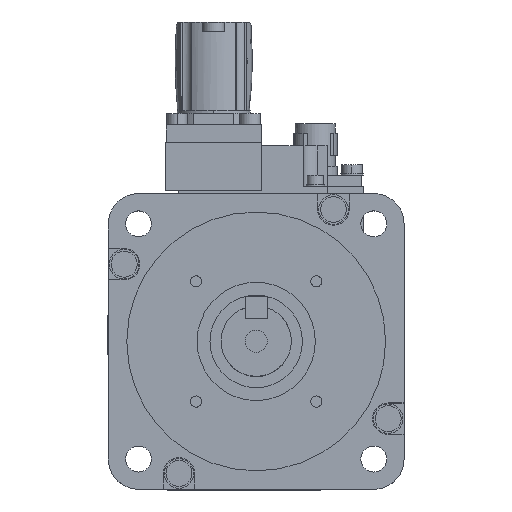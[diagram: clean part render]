
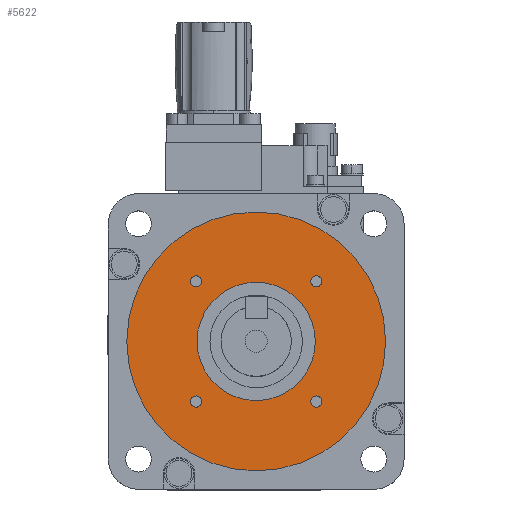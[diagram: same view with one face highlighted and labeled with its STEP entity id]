
A CAD part, top view. The second image highlights one B-rep face of the part: STEP entity #5622.
In plain terms, the highlighted planar face has unit normal (0, 0, 1).
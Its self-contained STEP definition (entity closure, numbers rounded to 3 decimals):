
#3662 = VERTEX_POINT ( 'NONE', #12675 ) ;
#3664 = EDGE_CURVE ( 'NONE', #3662, #3665, #12739, .T. ) ;
#3665 = VERTEX_POINT ( 'NONE', #12734 ) ;
#3725 = VERTEX_POINT ( 'NONE', #12862 ) ;
#3727 = EDGE_CURVE ( 'NONE', #3725, #3728, #12861, .T. ) ;
#3728 = VERTEX_POINT ( 'NONE', #12856 ) ;
#3742 = VERTEX_POINT ( 'NONE', #12891 ) ;
#3744 = EDGE_CURVE ( 'NONE', #3742, #3745, #12890, .T. ) ;
#3745 = VERTEX_POINT ( 'NONE', #12885 ) ;
#3793 = VERTEX_POINT ( 'NONE', #12978 ) ;
#3795 = EDGE_CURVE ( 'NONE', #3793, #3796, #12977, .T. ) ;
#3796 = VERTEX_POINT ( 'NONE', #12972 ) ;
#3892 = EDGE_CURVE ( 'NONE', #3893, #3894, #13382, .T. ) ;
#3893 = VERTEX_POINT ( 'NONE', #13377 ) ;
#3894 = VERTEX_POINT ( 'NONE', #13376 ) ;
#3957 = EDGE_CURVE ( 'NONE', #3958, #3959, #13508, .T. ) ;
#3958 = VERTEX_POINT ( 'NONE', #13503 ) ;
#3959 = VERTEX_POINT ( 'NONE', #13502 ) ;
#5547 = ORIENTED_EDGE ( 'NONE', *, *, #5548, .F. ) ;
#5548 = EDGE_CURVE ( 'NONE', #3665, #3662, #16454, .T. ) ;
#5549 = ORIENTED_EDGE ( 'NONE', *, *, #3664, .F. ) ;
#5550 = EDGE_LOOP ( 'NONE', ( #5551, #5553 ) ) ;
#5551 = ORIENTED_EDGE ( 'NONE', *, *, #5552, .F. ) ;
#5552 = EDGE_CURVE ( 'NONE', #3745, #3742, #16450, .T. ) ;
#5553 = ORIENTED_EDGE ( 'NONE', *, *, #3744, .F. ) ;
#5554 = EDGE_LOOP ( 'NONE', ( #5555, #5608 ) ) ;
#5555 = ORIENTED_EDGE ( 'NONE', *, *, #5607, .F. ) ;
#5594 = ORIENTED_EDGE ( 'NONE', *, *, #5595, .F. ) ;
#5595 = EDGE_CURVE ( 'NONE', #3959, #3958, #16523, .T. ) ;
#5607 = EDGE_CURVE ( 'NONE', #3728, #3725, #16497, .T. ) ;
#5608 = ORIENTED_EDGE ( 'NONE', *, *, #3727, .F. ) ;
#5609 = EDGE_LOOP ( 'NONE', ( #5610, #5612 ) ) ;
#5610 = ORIENTED_EDGE ( 'NONE', *, *, #5611, .F. ) ;
#5611 = EDGE_CURVE ( 'NONE', #3796, #3793, #16559, .T. ) ;
#5612 = ORIENTED_EDGE ( 'NONE', *, *, #3795, .F. ) ;
#5613 = EDGE_LOOP ( 'NONE', ( #5614, #5616 ) ) ;
#5614 = ORIENTED_EDGE ( 'NONE', *, *, #5615, .T. ) ;
#5615 = EDGE_CURVE ( 'NONE', #3894, #3893, #16554, .T. ) ;
#5616 = ORIENTED_EDGE ( 'NONE', *, *, #3892, .T. ) ;
#5617 = EDGE_LOOP ( 'NONE', ( #5618, #5594 ) ) ;
#5618 = ORIENTED_EDGE ( 'NONE', *, *, #3957, .F. ) ;
#5622 = ADVANCED_FACE ( 'NONE', ( #16549, #16548, #16547, #16546, #16545, #16544 ), #16543, .T. ) ;
#5623 = EDGE_LOOP ( 'NONE', ( #5547, #5549 ) ) ;
#12675 = CARTESIAN_POINT ( 'NONE',  ( 14.763, -16.263, 3. ) ) ;
#12734 = CARTESIAN_POINT ( 'NONE',  ( 17.763, -16.263, 3. ) ) ;
#12735 = DIRECTION ( 'NONE',  ( 0., -1., 0. ) ) ;
#12736 = DIRECTION ( 'NONE',  ( 0., 0., 1. ) ) ;
#12737 = CARTESIAN_POINT ( 'NONE',  ( 16.263, -16.263, 3. ) ) ;
#12738 = AXIS2_PLACEMENT_3D ( 'NONE', #12737, #12736, #12735 ) ;
#12739 = CIRCLE ( 'NONE', #12738, 1.5 ) ;
#12856 = CARTESIAN_POINT ( 'NONE',  ( -14.763, 16.263, 3. ) ) ;
#12857 = DIRECTION ( 'NONE',  ( 0., 1., 0. ) ) ;
#12858 = DIRECTION ( 'NONE',  ( 0., 0., 1. ) ) ;
#12859 = CARTESIAN_POINT ( 'NONE',  ( -16.263, 16.263, 3. ) ) ;
#12860 = AXIS2_PLACEMENT_3D ( 'NONE', #12859, #12858, #12857 ) ;
#12861 = CIRCLE ( 'NONE', #12860, 1.5 ) ;
#12862 = CARTESIAN_POINT ( 'NONE',  ( -17.763, 16.263, 3. ) ) ;
#12885 = CARTESIAN_POINT ( 'NONE',  ( -14.763, -16.263, 3. ) ) ;
#12886 = DIRECTION ( 'NONE',  ( -1., 0., 0. ) ) ;
#12887 = DIRECTION ( 'NONE',  ( 0., 0., 1. ) ) ;
#12888 = CARTESIAN_POINT ( 'NONE',  ( -16.263, -16.263, 3. ) ) ;
#12889 = AXIS2_PLACEMENT_3D ( 'NONE', #12888, #12887, #12886 ) ;
#12890 = CIRCLE ( 'NONE', #12889, 1.5 ) ;
#12891 = CARTESIAN_POINT ( 'NONE',  ( -17.763, -16.263, 3. ) ) ;
#12972 = CARTESIAN_POINT ( 'NONE',  ( 17.763, 16.263, 3. ) ) ;
#12973 = DIRECTION ( 'NONE',  ( 1., 0., 0. ) ) ;
#12974 = DIRECTION ( 'NONE',  ( 0., 0., 1. ) ) ;
#12975 = CARTESIAN_POINT ( 'NONE',  ( 16.263, 16.263, 3. ) ) ;
#12976 = AXIS2_PLACEMENT_3D ( 'NONE', #12975, #12974, #12973 ) ;
#12977 = CIRCLE ( 'NONE', #12976, 1.5 ) ;
#12978 = CARTESIAN_POINT ( 'NONE',  ( 14.763, 16.263, 3. ) ) ;
#13376 = CARTESIAN_POINT ( 'NONE',  ( -16., 0., 3. ) ) ;
#13377 = CARTESIAN_POINT ( 'NONE',  ( 16., 0., 3. ) ) ;
#13378 = DIRECTION ( 'NONE',  ( -1., 0., 0. ) ) ;
#13379 = DIRECTION ( 'NONE',  ( 0., 0., -1. ) ) ;
#13380 = CARTESIAN_POINT ( 'NONE',  ( 0., 0., 3. ) ) ;
#13381 = AXIS2_PLACEMENT_3D ( 'NONE', #13380, #13379, #13378 ) ;
#13382 = CIRCLE ( 'NONE', #13381, 16. ) ;
#13502 = CARTESIAN_POINT ( 'NONE',  ( 35., 0., 3. ) ) ;
#13503 = CARTESIAN_POINT ( 'NONE',  ( -35., 0., 3. ) ) ;
#13504 = DIRECTION ( 'NONE',  ( -1., 0., 0. ) ) ;
#13505 = DIRECTION ( 'NONE',  ( 0., 0., -1. ) ) ;
#13506 = CARTESIAN_POINT ( 'NONE',  ( 0., 0., 3. ) ) ;
#13507 = AXIS2_PLACEMENT_3D ( 'NONE', #13506, #13505, #13504 ) ;
#13508 = CIRCLE ( 'NONE', #13507, 35. ) ;
#16399 = CARTESIAN_POINT ( 'NONE',  ( 16.263, -16.263, 3. ) ) ;
#16446 = DIRECTION ( 'NONE',  ( -1., 0., 0. ) ) ;
#16447 = DIRECTION ( 'NONE',  ( 0., 0., 1. ) ) ;
#16448 = CARTESIAN_POINT ( 'NONE',  ( -16.263, -16.263, 3. ) ) ;
#16449 = AXIS2_PLACEMENT_3D ( 'NONE', #16448, #16447, #16446 ) ;
#16450 = CIRCLE ( 'NONE', #16449, 1.5 ) ;
#16451 = DIRECTION ( 'NONE',  ( 0., -1., 0. ) ) ;
#16452 = DIRECTION ( 'NONE',  ( 0., 0., 1. ) ) ;
#16453 = AXIS2_PLACEMENT_3D ( 'NONE', #16399, #16452, #16451 ) ;
#16454 = CIRCLE ( 'NONE', #16453, 1.5 ) ;
#16493 = DIRECTION ( 'NONE',  ( 0., 1., 0. ) ) ;
#16494 = DIRECTION ( 'NONE',  ( 0., 0., 1. ) ) ;
#16495 = CARTESIAN_POINT ( 'NONE',  ( -16.263, 16.263, 3. ) ) ;
#16496 = AXIS2_PLACEMENT_3D ( 'NONE', #16495, #16494, #16493 ) ;
#16497 = CIRCLE ( 'NONE', #16496, 1.5 ) ;
#16516 = DIRECTION ( 'NONE',  ( -1., 0., 0. ) ) ;
#16517 = DIRECTION ( 'NONE',  ( 0., 0., -1. ) ) ;
#16518 = CARTESIAN_POINT ( 'NONE',  ( 0., 0., 3. ) ) ;
#16519 = AXIS2_PLACEMENT_3D ( 'NONE', #16518, #16517, #16516 ) ;
#16523 = CIRCLE ( 'NONE', #16519, 35. ) ;
#16539 = DIRECTION ( 'NONE',  ( 1., 0., 0. ) ) ;
#16540 = DIRECTION ( 'NONE',  ( 0., 0., 1. ) ) ;
#16541 = CARTESIAN_POINT ( 'NONE',  ( 0., 35., 3. ) ) ;
#16542 = AXIS2_PLACEMENT_3D ( 'NONE', #16541, #16540, #16539 ) ;
#16543 = PLANE ( 'NONE',  #16542 ) ;
#16544 = FACE_OUTER_BOUND ( 'NONE', #5617, .T. ) ;
#16545 = FACE_BOUND ( 'NONE', #5613, .T. ) ;
#16546 = FACE_BOUND ( 'NONE', #5609, .T. ) ;
#16547 = FACE_BOUND ( 'NONE', #5554, .T. ) ;
#16548 = FACE_BOUND ( 'NONE', #5550, .T. ) ;
#16549 = FACE_BOUND ( 'NONE', #5623, .T. ) ;
#16550 = DIRECTION ( 'NONE',  ( -1., 0., 0. ) ) ;
#16551 = DIRECTION ( 'NONE',  ( 0., 0., -1. ) ) ;
#16552 = CARTESIAN_POINT ( 'NONE',  ( 0., 0., 3. ) ) ;
#16553 = AXIS2_PLACEMENT_3D ( 'NONE', #16552, #16551, #16550 ) ;
#16554 = CIRCLE ( 'NONE', #16553, 16. ) ;
#16555 = DIRECTION ( 'NONE',  ( 1., 0., 0. ) ) ;
#16556 = DIRECTION ( 'NONE',  ( 0., 0., 1. ) ) ;
#16557 = CARTESIAN_POINT ( 'NONE',  ( 16.263, 16.263, 3. ) ) ;
#16558 = AXIS2_PLACEMENT_3D ( 'NONE', #16557, #16556, #16555 ) ;
#16559 = CIRCLE ( 'NONE', #16558, 1.5 ) ;
